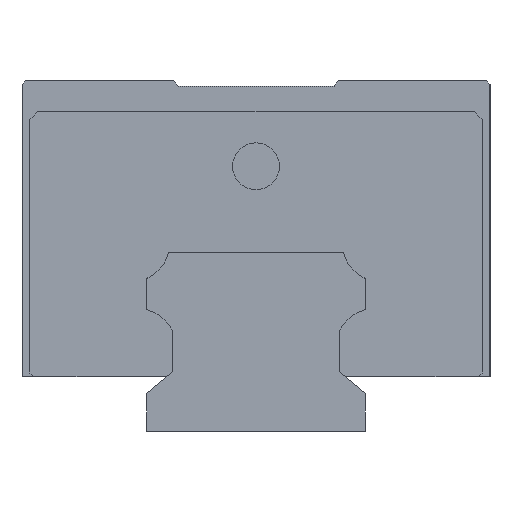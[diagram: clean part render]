
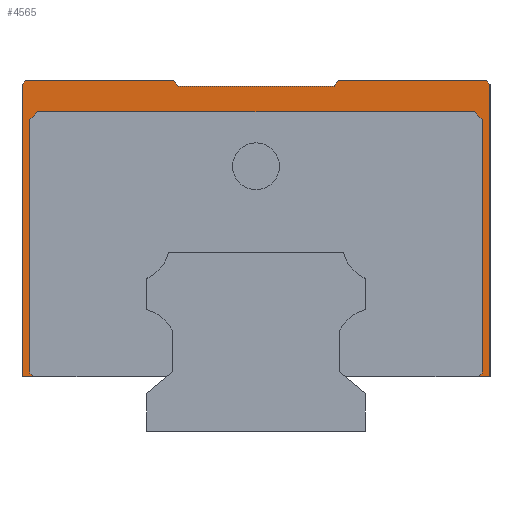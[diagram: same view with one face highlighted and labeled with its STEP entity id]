
A CAD part, left-side view. The second image highlights one B-rep face of the part: STEP entity #4565.
In plain terms, the highlighted planar face has unit normal (-1, 0, 0).
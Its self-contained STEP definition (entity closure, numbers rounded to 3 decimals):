
#4 = CARTESIAN_POINT ( 'NONE',  ( -34.65, -10., 44.25 ) ) ;
#63 = LINE ( 'NONE', #122, #4206 ) ;
#97 = EDGE_CURVE ( 'NONE', #5504, #2048, #2164, .T. ) ;
#122 = CARTESIAN_POINT ( 'NONE',  ( -34.65, -10.629, 45. ) ) ;
#148 = CARTESIAN_POINT ( 'NONE',  ( -34.65, 30., 45. ) ) ;
#184 = EDGE_CURVE ( 'NONE', #5075, #424, #5427, .T. ) ;
#197 = CARTESIAN_POINT ( 'NONE',  ( -34.65, -28., 41. ) ) ;
#199 = CARTESIAN_POINT ( 'NONE',  ( -34.65, 29.5, 45. ) ) ;
#216 = EDGE_CURVE ( 'NONE', #5504, #1623, #4043, .T. ) ;
#233 = ORIENTED_EDGE ( 'NONE', *, *, #3218, .F. ) ;
#261 = EDGE_CURVE ( 'NONE', #4355, #1427, #3571, .T. ) ;
#304 = ORIENTED_EDGE ( 'NONE', *, *, #2401, .T. ) ;
#409 = ORIENTED_EDGE ( 'NONE', *, *, #3415, .F. ) ;
#420 = ORIENTED_EDGE ( 'NONE', *, *, #1314, .T. ) ;
#424 = VERTEX_POINT ( 'NONE', #4518 ) ;
#467 = ORIENTED_EDGE ( 'NONE', *, *, #616, .F. ) ;
#496 = VERTEX_POINT ( 'NONE', #1948 ) ;
#565 = LINE ( 'NONE', #148, #2594 ) ;
#570 = VECTOR ( 'NONE', #5025, 1000. ) ;
#616 = EDGE_CURVE ( 'NONE', #5207, #3990, #5337, .T. ) ;
#728 = CARTESIAN_POINT ( 'NONE',  ( -34.65, 30., 44.5 ) ) ;
#785 = CARTESIAN_POINT ( 'NONE',  ( -34.65, -30., 45. ) ) ;
#810 = VECTOR ( 'NONE', #2543, 1000. ) ;
#907 = VERTEX_POINT ( 'NONE', #4620 ) ;
#959 = ORIENTED_EDGE ( 'NONE', *, *, #216, .F. ) ;
#962 = DIRECTION ( 'NONE',  ( 0., 1., 0. ) ) ;
#977 = DIRECTION ( 'NONE',  ( 0., 0.643, -0.766 ) ) ;
#1032 = PLANE ( 'NONE',  #4320 ) ;
#1103 = VECTOR ( 'NONE', #2165, 1000. ) ;
#1123 = LINE ( 'NONE', #4299, #1126 ) ;
#1126 = VECTOR ( 'NONE', #1179, 1000. ) ;
#1173 = DIRECTION ( 'NONE',  ( 0., 0.707, 0.707 ) ) ;
#1179 = DIRECTION ( 'NONE',  ( 0., -0.707, -0.707 ) ) ;
#1191 = DIRECTION ( 'NONE',  ( 0., 0., 1. ) ) ;
#1314 = EDGE_CURVE ( 'NONE', #4989, #2104, #3403, .T. ) ;
#1338 = DIRECTION ( 'NONE',  ( 0., 0.707, -0.707 ) ) ;
#1353 = DIRECTION ( 'NONE',  ( 0., -0.707, 0.707 ) ) ;
#1397 = EDGE_CURVE ( 'NONE', #496, #4430, #5685, .T. ) ;
#1398 = CARTESIAN_POINT ( 'NONE',  ( -34.65, -10., 44.25 ) ) ;
#1427 = VERTEX_POINT ( 'NONE', #3135 ) ;
#1460 = CARTESIAN_POINT ( 'NONE',  ( -34.65, 29., 7.5 ) ) ;
#1503 = VECTOR ( 'NONE', #5101, 1000. ) ;
#1623 = VERTEX_POINT ( 'NONE', #3699 ) ;
#1667 = CARTESIAN_POINT ( 'NONE',  ( -34.65, 30., 7. ) ) ;
#1697 = CARTESIAN_POINT ( 'NONE',  ( -34.65, 28.5, 7. ) ) ;
#1820 = VERTEX_POINT ( 'NONE', #5194 ) ;
#1938 = DIRECTION ( 'NONE',  ( 0., 1., 0. ) ) ;
#1939 = EDGE_CURVE ( 'NONE', #4989, #3061, #2169, .T. ) ;
#1948 = CARTESIAN_POINT ( 'NONE',  ( -34.65, 29., 40. ) ) ;
#1957 = DIRECTION ( 'NONE',  ( 0., -1., 0. ) ) ;
#1988 = ORIENTED_EDGE ( 'NONE', *, *, #4523, .F. ) ;
#2003 = VECTOR ( 'NONE', #4862, 1000. ) ;
#2048 = VERTEX_POINT ( 'NONE', #1460 ) ;
#2104 = VERTEX_POINT ( 'NONE', #728 ) ;
#2164 = LINE ( 'NONE', #1697, #810 ) ;
#2165 = DIRECTION ( 'NONE',  ( 0., 0.643, 0.766 ) ) ;
#2169 = LINE ( 'NONE', #3069, #2003 ) ;
#2208 = VECTOR ( 'NONE', #962, 1000. ) ;
#2300 = FACE_OUTER_BOUND ( 'NONE', #2603, .T. ) ;
#2306 = ORIENTED_EDGE ( 'NONE', *, *, #184, .T. ) ;
#2384 = CARTESIAN_POINT ( 'NONE',  ( -34.65, -30., 45. ) ) ;
#2390 = EDGE_CURVE ( 'NONE', #907, #5075, #63, .T. ) ;
#2401 = EDGE_CURVE ( 'NONE', #4430, #3714, #4171, .T. ) ;
#2533 = ORIENTED_EDGE ( 'NONE', *, *, #4198, .T. ) ;
#2543 = DIRECTION ( 'NONE',  ( 0., 0.707, 0.707 ) ) ;
#2594 = VECTOR ( 'NONE', #1957, 1000. ) ;
#2603 = EDGE_LOOP ( 'NONE', ( #959, #2635, #4435, #3055, #304, #2533, #5758, #2604, #1988, #467, #3752, #233, #4570, #2306, #2899, #5807, #420, #409 ) ) ;
#2604 = ORIENTED_EDGE ( 'NONE', *, *, #261, .T. ) ;
#2635 = ORIENTED_EDGE ( 'NONE', *, *, #97, .T. ) ;
#2694 = VECTOR ( 'NONE', #1191, 1000. ) ;
#2812 = CARTESIAN_POINT ( 'NONE',  ( -34.65, -29., 40. ) ) ;
#2875 = CARTESIAN_POINT ( 'NONE',  ( -34.65, 10.629, 45. ) ) ;
#2888 = VECTOR ( 'NONE', #4116, 1000. ) ;
#2899 = ORIENTED_EDGE ( 'NONE', *, *, #3434, .T. ) ;
#2989 = DIRECTION ( 'NONE',  ( 0., 0.707, -0.707 ) ) ;
#3055 = ORIENTED_EDGE ( 'NONE', *, *, #1397, .T. ) ;
#3061 = VERTEX_POINT ( 'NONE', #2875 ) ;
#3069 = CARTESIAN_POINT ( 'NONE',  ( -34.65, 30., 45. ) ) ;
#3081 = CARTESIAN_POINT ( 'NONE',  ( -34.65, -29., 7.5 ) ) ;
#3135 = CARTESIAN_POINT ( 'NONE',  ( -34.65, -28.5, 7. ) ) ;
#3144 = CARTESIAN_POINT ( 'NONE',  ( -34.65, -30., 7. ) ) ;
#3218 = EDGE_CURVE ( 'NONE', #907, #3620, #565, .T. ) ;
#3224 = EDGE_CURVE ( 'NONE', #1820, #4355, #4225, .T. ) ;
#3403 = LINE ( 'NONE', #5204, #4684 ) ;
#3415 = EDGE_CURVE ( 'NONE', #1623, #2104, #4720, .T. ) ;
#3434 = EDGE_CURVE ( 'NONE', #424, #3061, #4252, .T. ) ;
#3571 = LINE ( 'NONE', #5370, #5483 ) ;
#3620 = VERTEX_POINT ( 'NONE', #4159 ) ;
#3684 = CARTESIAN_POINT ( 'NONE',  ( -34.65, 11.769, 7. ) ) ;
#3698 = CARTESIAN_POINT ( 'NONE',  ( -34.65, 28., 41. ) ) ;
#3699 = CARTESIAN_POINT ( 'NONE',  ( -34.65, 30., 7. ) ) ;
#3714 = VERTEX_POINT ( 'NONE', #197 ) ;
#3752 = ORIENTED_EDGE ( 'NONE', *, *, #4657, .T. ) ;
#3829 = CARTESIAN_POINT ( 'NONE',  ( -34.65, 28.5, 7. ) ) ;
#3942 = CARTESIAN_POINT ( 'NONE',  ( -34.65, 28., 41. ) ) ;
#3990 = VERTEX_POINT ( 'NONE', #3144 ) ;
#4043 = LINE ( 'NONE', #3684, #5780 ) ;
#4071 = VECTOR ( 'NONE', #5726, 1000. ) ;
#4090 = DIRECTION ( 'NONE',  ( 1., 0., 0. ) ) ;
#4102 = DIRECTION ( 'NONE',  ( 0., 1., 0. ) ) ;
#4116 = DIRECTION ( 'NONE',  ( 0., -1., 0. ) ) ;
#4159 = CARTESIAN_POINT ( 'NONE',  ( -34.65, -29.5, 45. ) ) ;
#4171 = LINE ( 'NONE', #3698, #2888 ) ;
#4198 = EDGE_CURVE ( 'NONE', #3714, #1820, #1123, .T. ) ;
#4206 = VECTOR ( 'NONE', #977, 1000. ) ;
#4225 = LINE ( 'NONE', #2812, #5228 ) ;
#4228 = VECTOR ( 'NONE', #1173, 1000. ) ;
#4235 = CARTESIAN_POINT ( 'NONE',  ( -34.65, -30., 44.5 ) ) ;
#4252 = LINE ( 'NONE', #4949, #1103 ) ;
#4299 = CARTESIAN_POINT ( 'NONE',  ( -34.65, -28., 41. ) ) ;
#4320 = AXIS2_PLACEMENT_3D ( 'NONE', #2384, #4090, #1938 ) ;
#4325 = LINE ( 'NONE', #4235, #4228 ) ;
#4355 = VERTEX_POINT ( 'NONE', #3081 ) ;
#4430 = VERTEX_POINT ( 'NONE', #3942 ) ;
#4435 = ORIENTED_EDGE ( 'NONE', *, *, #5320, .T. ) ;
#4493 = CARTESIAN_POINT ( 'NONE',  ( -34.65, -30., 44.5 ) ) ;
#4518 = CARTESIAN_POINT ( 'NONE',  ( -34.65, 10., 44.25 ) ) ;
#4523 = EDGE_CURVE ( 'NONE', #3990, #1427, #4934, .T. ) ;
#4537 = CARTESIAN_POINT ( 'NONE',  ( -34.65, -30., 7. ) ) ;
#4560 = DIRECTION ( 'NONE',  ( 0., 0., -1. ) ) ;
#4565 = ADVANCED_FACE ( 'NONE', ( #2300 ), #1032, .F. ) ;
#4570 = ORIENTED_EDGE ( 'NONE', *, *, #2390, .T. ) ;
#4620 = CARTESIAN_POINT ( 'NONE',  ( -34.65, -10.629, 45. ) ) ;
#4656 = LINE ( 'NONE', #5041, #1503 ) ;
#4657 = EDGE_CURVE ( 'NONE', #5207, #3620, #4325, .T. ) ;
#4684 = VECTOR ( 'NONE', #2989, 1000. ) ;
#4720 = LINE ( 'NONE', #1667, #2694 ) ;
#4862 = DIRECTION ( 'NONE',  ( 0., -1., 0. ) ) ;
#4934 = LINE ( 'NONE', #4537, #570 ) ;
#4949 = CARTESIAN_POINT ( 'NONE',  ( -34.65, 10., 44.25 ) ) ;
#4989 = VERTEX_POINT ( 'NONE', #199 ) ;
#5002 = VECTOR ( 'NONE', #1353, 1000. ) ;
#5025 = DIRECTION ( 'NONE',  ( 0., 1., 0. ) ) ;
#5041 = CARTESIAN_POINT ( 'NONE',  ( -34.65, 29., 7.5 ) ) ;
#5075 = VERTEX_POINT ( 'NONE', #4 ) ;
#5101 = DIRECTION ( 'NONE',  ( 0., 0., 1. ) ) ;
#5194 = CARTESIAN_POINT ( 'NONE',  ( -34.65, -29., 40. ) ) ;
#5204 = CARTESIAN_POINT ( 'NONE',  ( -34.65, 29.5, 45. ) ) ;
#5207 = VERTEX_POINT ( 'NONE', #4493 ) ;
#5228 = VECTOR ( 'NONE', #4560, 1000. ) ;
#5232 = CARTESIAN_POINT ( 'NONE',  ( -34.65, 29., 40. ) ) ;
#5320 = EDGE_CURVE ( 'NONE', #2048, #496, #4656, .T. ) ;
#5337 = LINE ( 'NONE', #785, #4071 ) ;
#5370 = CARTESIAN_POINT ( 'NONE',  ( -34.65, -29., 7.5 ) ) ;
#5427 = LINE ( 'NONE', #1398, #2208 ) ;
#5483 = VECTOR ( 'NONE', #1338, 1000. ) ;
#5504 = VERTEX_POINT ( 'NONE', #3829 ) ;
#5685 = LINE ( 'NONE', #5232, #5002 ) ;
#5726 = DIRECTION ( 'NONE',  ( 0., 0., -1. ) ) ;
#5758 = ORIENTED_EDGE ( 'NONE', *, *, #3224, .T. ) ;
#5780 = VECTOR ( 'NONE', #4102, 1000. ) ;
#5807 = ORIENTED_EDGE ( 'NONE', *, *, #1939, .F. ) ;
